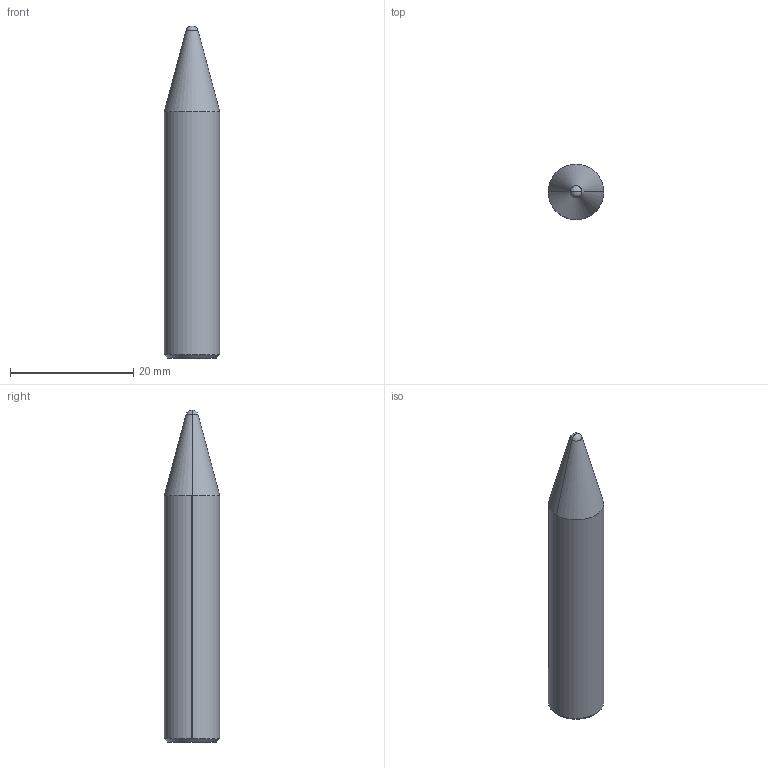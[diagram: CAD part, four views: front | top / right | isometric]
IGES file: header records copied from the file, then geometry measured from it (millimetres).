
Global section: file name: E:\UnigraphicsGraphicData\MISUMI_PRESS-PARTS\IGES\3d_snsth10-p9.00-b40_02974_r00.igs; native system: NX V5.0; preprocessor: UGS NX IGES V5.0; author: MISUMI; date: 20110105.162855; units: millimetre
Bounding box: 9 x 9 x 53.93 mm (x, y, z)
Surface area: 1582.4 mm2 (no closed solid volume)
Topology: 0 solids, 0 shells, 12 faces, 64 edges, 62 vertices
Faces by surface type: bspline 12
